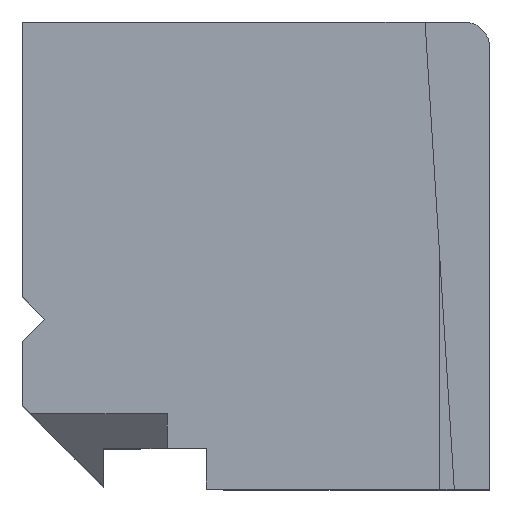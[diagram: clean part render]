
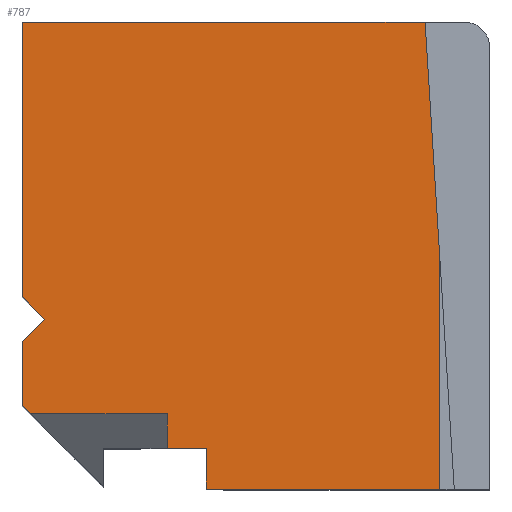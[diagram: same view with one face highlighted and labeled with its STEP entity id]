
A CAD part, top view. The second image highlights one B-rep face of the part: STEP entity #787.
In plain terms, the highlighted planar face has unit normal (0, 0, 1).
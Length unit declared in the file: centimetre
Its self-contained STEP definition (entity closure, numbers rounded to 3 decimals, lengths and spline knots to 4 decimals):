
#20 = DIRECTION ( 'NONE',  ( 0., -1., 0. ) ) ;
#35 = VECTOR ( 'NONE', #422, 100. ) ;
#41 = EDGE_CURVE ( 'NONE', #574, #385, #997, .T. ) ;
#45 = VERTEX_POINT ( 'NONE', #189 ) ;
#52 = FACE_OUTER_BOUND ( 'NONE', #1143, .T. ) ;
#88 = VECTOR ( 'NONE', #809, 100. ) ;
#123 = CARTESIAN_POINT ( 'NONE',  ( 310.0347, 161.1615, 1000. ) ) ;
#143 = VERTEX_POINT ( 'NONE', #379 ) ;
#145 = VECTOR ( 'NONE', #986, 100. ) ;
#149 = PLANE ( 'NONE',  #353 ) ;
#176 = ORIENTED_EDGE ( 'NONE', *, *, #1102, .T. ) ;
#178 = VERTEX_POINT ( 'NONE', #650 ) ;
#189 = CARTESIAN_POINT ( 'NONE',  ( 861.8792, 1000., 1000. ) ) ;
#202 = VECTOR ( 'NONE', #1095, 100. ) ;
#206 = EDGE_CURVE ( 'NONE', #702, #178, #730, .T. ) ;
#211 = LINE ( 'NONE', #647, #948 ) ;
#230 = VECTOR ( 'NONE', #1107, 100. ) ;
#231 = ORIENTED_EDGE ( 'NONE', *, *, #567, .T. ) ;
#239 = DIRECTION ( 'NONE',  ( 1., 0., 0. ) ) ;
#240 = VERTEX_POINT ( 'NONE', #556 ) ;
#249 = CARTESIAN_POINT ( 'NONE',  ( 0., 0., 1000. ) ) ;
#253 = DIRECTION ( 'NONE',  ( 0., -1., 0. ) ) ;
#263 = ORIENTED_EDGE ( 'NONE', *, *, #487, .F. ) ;
#266 = VERTEX_POINT ( 'NONE', #123 ) ;
#267 = LINE ( 'NONE', #909, #145 ) ;
#284 = DIRECTION ( 'NONE',  ( -0.707, 0.707, 0. ) ) ;
#288 = CARTESIAN_POINT ( 'NONE',  ( 47.5104, 363.9762, 1000. ) ) ;
#289 = EDGE_CURVE ( 'NONE', #433, #266, #360, .T. ) ;
#290 = CARTESIAN_POINT ( 'NONE',  ( 0., 1000., 1000. ) ) ;
#305 = VECTOR ( 'NONE', #239, 100. ) ;
#317 = DIRECTION ( 'NONE',  ( 1., 0., 0. ) ) ;
#333 = ORIENTED_EDGE ( 'NONE', *, *, #481, .F. ) ;
#353 = AXIS2_PLACEMENT_3D ( 'NONE', #474, #575, #317 ) ;
#360 = LINE ( 'NONE', #1162, #866 ) ;
#365 = VECTOR ( 'NONE', #253, 100. ) ;
#379 = CARTESIAN_POINT ( 'NONE',  ( 893.3165, 0., 1000. ) ) ;
#385 = VERTEX_POINT ( 'NONE', #532 ) ;
#394 = ORIENTED_EDGE ( 'NONE', *, *, #439, .T. ) ;
#398 = CARTESIAN_POINT ( 'NONE',  ( 0., 316.4658, 1000. ) ) ;
#404 = LINE ( 'NONE', #688, #782 ) ;
#422 = DIRECTION ( 'NONE',  ( -1., 0., 0. ) ) ;
#433 = VERTEX_POINT ( 'NONE', #1112 ) ;
#439 = EDGE_CURVE ( 'NONE', #433, #885, #823, .T. ) ;
#442 = VECTOR ( 'NONE', #1093, 100. ) ;
#449 = LINE ( 'NONE', #459, #88 ) ;
#459 = CARTESIAN_POINT ( 'NONE',  ( 89.449, 89.449, 1000. ) ) ;
#467 = EDGE_CURVE ( 'NONE', #885, #583, #912, .T. ) ;
#470 = CARTESIAN_POINT ( 'NONE',  ( 173.1531, 87.6769, 1000. ) ) ;
#474 = CARTESIAN_POINT ( 'NONE',  ( 0., 0., 1000. ) ) ;
#481 = EDGE_CURVE ( 'NONE', #1127, #178, #1000, .T. ) ;
#487 = EDGE_CURVE ( 'NONE', #45, #496, #211, .T. ) ;
#496 = VERTEX_POINT ( 'NONE', #635 ) ;
#499 = VECTOR ( 'NONE', #284, 100. ) ;
#510 = LINE ( 'NONE', #970, #365 ) ;
#532 = CARTESIAN_POINT ( 'NONE',  ( 0., 178.898, 1000. ) ) ;
#556 = CARTESIAN_POINT ( 'NONE',  ( 17.7365, 161.1615, 1000. ) ) ;
#567 = EDGE_CURVE ( 'NONE', #45, #702, #771, .T. ) ;
#574 = VERTEX_POINT ( 'NONE', #398 ) ;
#575 = DIRECTION ( 'NONE',  ( 0., 0., 1. ) ) ;
#577 = CARTESIAN_POINT ( 'NONE',  ( 393.7143, 0., 1000. ) ) ;
#583 = VERTEX_POINT ( 'NONE', #577 ) ;
#635 = CARTESIAN_POINT ( 'NONE',  ( 893.3165, 496.9165, 1000. ) ) ;
#639 = ORIENTED_EDGE ( 'NONE', *, *, #946, .T. ) ;
#647 = CARTESIAN_POINT ( 'NONE',  ( 861.8792, 1000., 1000. ) ) ;
#649 = EDGE_CURVE ( 'NONE', #266, #240, #404, .T. ) ;
#650 = CARTESIAN_POINT ( 'NONE',  ( 0., 411.4866, 1000. ) ) ;
#684 = ORIENTED_EDGE ( 'NONE', *, *, #1145, .F. ) ;
#688 = CARTESIAN_POINT ( 'NONE',  ( 310.0347, 161.1615, 1000. ) ) ;
#702 = VERTEX_POINT ( 'NONE', #1062 ) ;
#707 = LINE ( 'NONE', #249, #305 ) ;
#713 = ORIENTED_EDGE ( 'NONE', *, *, #289, .F. ) ;
#730 = LINE ( 'NONE', #290, #202 ) ;
#752 = CARTESIAN_POINT ( 'NONE',  ( 393.7143, 87.6769, 1000. ) ) ;
#771 = LINE ( 'NONE', #1027, #35 ) ;
#775 = ORIENTED_EDGE ( 'NONE', *, *, #206, .T. ) ;
#782 = VECTOR ( 'NONE', #1036, 100. ) ;
#787 = ADVANCED_FACE ( 'NONE', ( #52 ), #149, .T. ) ;
#809 = DIRECTION ( 'NONE',  ( 0.707, -0.707, 0. ) ) ;
#820 = CARTESIAN_POINT ( 'NONE',  ( 47.5104, 363.9762, 1000. ) ) ;
#823 = LINE ( 'NONE', #470, #230 ) ;
#832 = DIRECTION ( 'NONE',  ( 0.062, -0.998, 0. ) ) ;
#852 = ORIENTED_EDGE ( 'NONE', *, *, #649, .F. ) ;
#866 = VECTOR ( 'NONE', #1077, 100. ) ;
#885 = VERTEX_POINT ( 'NONE', #752 ) ;
#906 = CARTESIAN_POINT ( 'NONE',  ( 393.7143, 0., 1000. ) ) ;
#908 = CARTESIAN_POINT ( 'NONE',  ( 0., 1000., 1000. ) ) ;
#909 = CARTESIAN_POINT ( 'NONE',  ( 0., 316.4658, 1000. ) ) ;
#912 = LINE ( 'NONE', #906, #1090 ) ;
#946 = EDGE_CURVE ( 'NONE', #583, #143, #707, .T. ) ;
#948 = VECTOR ( 'NONE', #832, 100. ) ;
#966 = EDGE_CURVE ( 'NONE', #496, #143, #510, .T. ) ;
#970 = CARTESIAN_POINT ( 'NONE',  ( 893.3165, 806.8082, 1000. ) ) ;
#986 = DIRECTION ( 'NONE',  ( 0.707, 0.707, 0. ) ) ;
#997 = LINE ( 'NONE', #908, #442 ) ;
#1000 = LINE ( 'NONE', #288, #499 ) ;
#1027 = CARTESIAN_POINT ( 'NONE',  ( 0., 1000., 1000. ) ) ;
#1036 = DIRECTION ( 'NONE',  ( -1., 0., 0. ) ) ;
#1057 = ORIENTED_EDGE ( 'NONE', *, *, #467, .T. ) ;
#1062 = CARTESIAN_POINT ( 'NONE',  ( 0., 1000., 1000. ) ) ;
#1077 = DIRECTION ( 'NONE',  ( 0., 1., 0. ) ) ;
#1090 = VECTOR ( 'NONE', #20, 100. ) ;
#1093 = DIRECTION ( 'NONE',  ( 0., -1., 0. ) ) ;
#1095 = DIRECTION ( 'NONE',  ( 0., -1., 0. ) ) ;
#1102 = EDGE_CURVE ( 'NONE', #385, #240, #449, .T. ) ;
#1107 = DIRECTION ( 'NONE',  ( 1., 0., 0. ) ) ;
#1112 = CARTESIAN_POINT ( 'NONE',  ( 310.0347, 87.6769, 1000. ) ) ;
#1121 = ORIENTED_EDGE ( 'NONE', *, *, #41, .T. ) ;
#1127 = VERTEX_POINT ( 'NONE', #820 ) ;
#1143 = EDGE_LOOP ( 'NONE', ( #852, #713, #394, #1057, #639, #1159, #263, #231, #775, #333, #684, #1121, #176 ) ) ;
#1145 = EDGE_CURVE ( 'NONE', #574, #1127, #267, .T. ) ;
#1159 = ORIENTED_EDGE ( 'NONE', *, *, #966, .F. ) ;
#1162 = CARTESIAN_POINT ( 'NONE',  ( 310.0347, 0., 1000. ) ) ;
